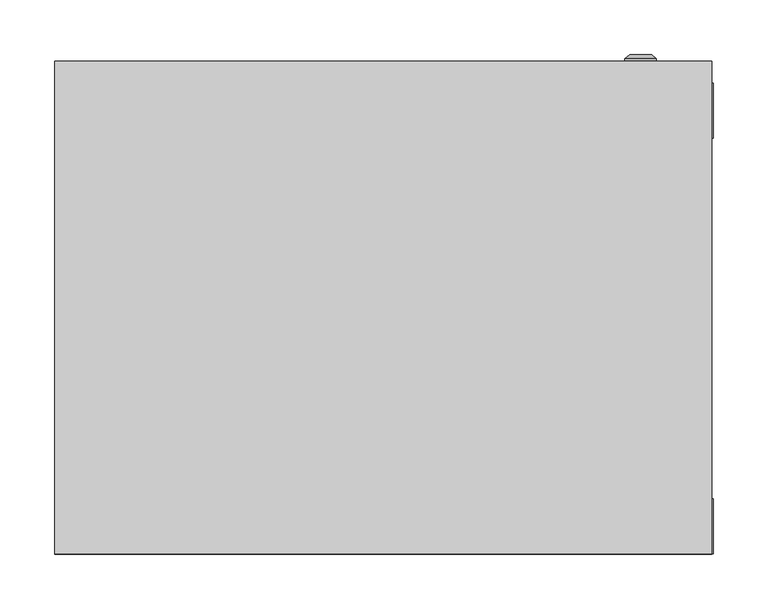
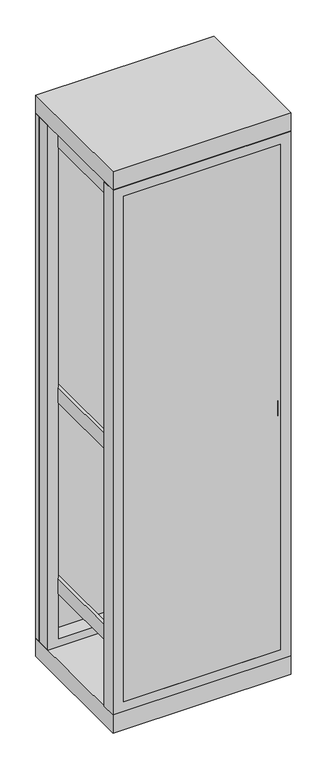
"""IFC4 building model written with IfcOpenShell, lengths in millimetres: proxy geometry, ВРУ-1 : ВРУ-1_2000х600х450."""

from ifc_helpers import new_model, si_unit, frame, origin, origin_with_axes, place, context, project, spatial, polyline, circle_curve, outline, extrude, source, transform, mapped, element, save
from ifc_brep_helpers import plane_surface, cylinder_surface, revolved_surface, advanced_brep


def electrical_equipment_46bb506c(model_context):
    return source(origin(), model_context, "Body", "SolidModel", [
        extrude(outline(polyline([(265.8707865, 0.0), (-263.3426966, 0.0), (-263.3426966, 10.0), (265.8707865, 10.0), (265.8707865, 0.0)])), frame((0.0, 0.0, 99.1378449), z_axis=(0.0, 0.0, 1.0), x_axis=(1.0, 0.0, 0.0)), (0.0, 0.0, 1.0), 1799.6160511),
        extrude(outline(polyline([(-255.8707865, 125.9831461), (-215.8707865, 125.9831461), (-215.8707865, 93.1179775), (-218.8707865, 93.1179775), (-218.8707865, 122.9831461), (-252.8707865, 122.9831461), (-252.8707865, 93.1179775), (-255.8707865, 93.1179775), (-255.8707865, 125.9831461)])), frame((0.0, 0.0, 189.6067416), z_axis=(0.0, 0.0, 1.0), x_axis=(1.0, 0.0, 0.0)), (0.0, 0.0, 1.0), 1745.3932584),
        extrude(outline(polyline([(215.8707865, 125.9831461), (255.8707865, 125.9831461), (255.8707865, 93.1179775), (252.8707865, 93.1179775), (252.8707865, 122.9831461), (218.8707865, 122.9831461), (218.8707865, 93.1179775), (215.8707865, 93.1179775), (215.8707865, 125.9831461)])), frame((0.0, 0.0, 189.6067416), z_axis=(0.0, 0.0, 1.0), x_axis=(1.0, 0.0, 0.0)), (0.0, 0.0, 1.0), 1745.3932584),
        extrude(outline(polyline([(-255.8707865, 10.0), (-265.8707865, 10.0), (-265.8707865, 430.0), (-255.8707865, 430.0), (-255.8707865, 10.0)])), frame((0.0, 0.0, 1845.5966059), z_axis=(0.0, 0.0, 1.0), x_axis=(1.0, 0.0, 0.0)), (0.0, 0.0, 1.0), 53.0898876),
        extrude(outline(polyline([(265.8707865, 10.0), (255.8707865, 10.0), (255.8707865, 430.0), (265.8707865, 430.0), (265.8707865, 10.0)])), frame((0.0, 0.0, 1845.5966059), z_axis=(0.0, 0.0, 1.0), x_axis=(1.0, 0.0, 0.0)), (0.0, 0.0, 1.0), 53.0898876),
        extrude(outline(polyline([(-255.8707865, 10.0), (-265.8707865, 10.0), (-265.8707865, 430.0), (-255.8707865, 430.0), (-255.8707865, 10.0)])), frame((0.0, 0.0, 255.5966059), z_axis=(0.0, 0.0, 1.0), x_axis=(1.0, 0.0, 0.0)), (0.0, 0.0, 1.0), 53.0898876),
        extrude(outline(polyline([(265.8707865, 10.0), (255.8707865, 10.0), (255.8707865, 430.0), (265.8707865, 430.0), (265.8707865, 10.0)])), frame((0.0, 0.0, 255.5966059), z_axis=(0.0, 0.0, 1.0), x_axis=(1.0, 0.0, 0.0)), (0.0, 0.0, 1.0), 53.0898876),
        extrude(outline(polyline([(-255.8707865, 10.0), (-265.8707865, 10.0), (-265.8707865, 430.0), (-255.8707865, 430.0), (-255.8707865, 10.0)])), frame((0.0, 0.0, 935.5966059), z_axis=(0.0, 0.0, 1.0), x_axis=(1.0, 0.0, 0.0)), (0.0, 0.0, 1.0), 53.0898876),
        extrude(outline(polyline([(265.8707865, 0.0), (255.8707865, 0.0), (255.8707865, 430.0), (265.8707865, 430.0), (265.8707865, 0.0)])), frame((0.0, 0.0, 935.5966059), z_axis=(0.0, 0.0, 1.0), x_axis=(1.0, 0.0, 0.0)), (0.0, 0.0, 1.0), 53.0898876),
        extrude(outline(polyline([(1934.1471543, -300.0), (65.0187804, -300.0), (65.0187804, 301.2640449), (1934.1471543, 301.2640449), (1934.1471543, -300.0)]), holes=[polyline([(99.1378449, 265.8707865), (99.1378449, -263.3426966), (1898.7538959, -263.3426966), (1898.7538959, 265.8707865), (99.1378449, 265.8707865)])]), frame((0.0, 0.0, 0.0), z_axis=(0.0, 1.0, 0.0), x_axis=(0.0, 0.0, 1.0)), (0.0, 0.0, 1.0), 50.0),
        extrude(outline(polyline([(1935.0, -300.0), (65.0187804, -300.0), (65.0187804, 301.2640449), (1935.0, 301.2640449), (1935.0, -300.0)]), holes=[polyline([(93.3701084, 265.8707865), (93.3701084, -263.3426966), (1892.9861595, -263.3426966), (1892.9861595, 265.8707865), (93.3701084, 265.8707865)])]), frame((0.0, 380.0, 0.0), z_axis=(0.0, 1.0, 0.0), x_axis=(0.0, 0.0, 1.0)), (0.0, 0.0, 1.0), 50.0),
        extrude(outline(polyline([(300.0067809, 450.0), (300.0067809, 0.0), (-300.0, 0.0), (-300.0, 450.0), (300.0067809, 450.0)])), frame((0.0, 0.0, 1935.0), z_axis=(0.0, 0.0, 1.0), x_axis=(1.0, 0.0, 0.0)), (0.0, 0.0, 1.0), 65.0),
        advanced_brep(
        [(220.669873, 450.0, 515.0), (249.330127, 450.0, 515.0), (235.0, 450.0, 515.0), (220.669873, 452.366592, 515.0), (249.330127, 452.366592, 515.0), (225.0, 456.0, 515.0), (245.0, 456.0, 515.0), (233.1080471, 456.0, 515.0), (236.8919529, 456.0, 515.0), (233.1080471, 454.9822294, 515.0), (236.8919529, 454.9822294, 515.0), (235.0, 454.9822294, 515.0)],
        [
            (0, 1, circle_curve(frame((235.0, 450.0, 515.0), z_axis=(0.0, -1.0, 0.0), x_axis=(1.0, 0.0, 0.0)), 14.330127)),
            (1, 2),
            (2, 0),
            (1, 0, circle_curve(frame((235.0, 450.0, 515.0), z_axis=(0.0, -1.0, 0.0), x_axis=(1.0, 0.0, 0.0)), 14.330127)),
            (3, 4, circle_curve(frame((235.0, 452.366592, 515.0), z_axis=(0.0, -1.0, 0.0), x_axis=(1.0, 0.0, 0.0)), 14.330127)),
            (4, 1),
            (0, 3),
            (4, 3, circle_curve(frame((235.0, 452.366592, 515.0), z_axis=(0.0, -1.0, 0.0), x_axis=(1.0, 0.0, 0.0)), 14.330127)),
            (5, 6, circle_curve(frame((235.0, 456.0, 515.0), z_axis=(0.0, -1.0, 0.0), x_axis=(1.0, 0.0, 0.0)), 10.0)),
            (6, 4),
            (3, 5),
            (6, 5, circle_curve(frame((235.0, 456.0, 515.0), z_axis=(0.0, -1.0, 0.0), x_axis=(1.0, 0.0, 0.0)), 10.0)),
            (7, 8, circle_curve(frame((235.0, 456.0, 515.0), z_axis=(0.0, -1.0, 0.0), x_axis=(1.0, 0.0, 0.0)), 1.8919529)),
            (8, 6),
            (5, 7),
            (8, 7, circle_curve(frame((235.0, 456.0, 515.0), z_axis=(0.0, -1.0, 0.0), x_axis=(1.0, 0.0, 0.0)), 1.8919529)),
            (9, 10, circle_curve(frame((235.0, 454.9822294, 515.0), z_axis=(0.0, -1.0, 0.0), x_axis=(1.0, 0.0, 0.0)), 1.8919529)),
            (10, 8),
            (7, 9),
            (10, 9, circle_curve(frame((235.0, 454.9822294, 515.0), z_axis=(0.0, -1.0, 0.0), x_axis=(1.0, 0.0, 0.0)), 1.8919529)),
            (11, 10),
            (9, 11),
        ],
        [
            plane_surface(frame((235.0, 450.0, 515.0), z_axis=(0.0, -1.0, 0.0), x_axis=(1.0, 0.0, 0.0))),
            cylinder_surface(frame((235.0, 463.1348851, 515.0), z_axis=(0.0, 1.0, 0.0), x_axis=(1.0, 0.0, 0.0)), 14.330127),
            revolved_surface(polyline([(249.330127, 452.366592, 515.0), (245.0, 456.0, 515.0)]), (235.0, 463.1348851, 515.0), (0.0, 1.0, 0.0)),
            plane_surface(frame((235.0, 456.0, 515.0), z_axis=(0.0, 1.0, 0.0), x_axis=(1.0, 0.0, 0.0))),
            revolved_surface(polyline([(236.8919529, 456.0, 515.0), (236.8919529, 454.9822294, 515.0)]), (235.0, 463.1348851, 515.0), (0.0, 1.0, 0.0)),
            plane_surface(frame((235.0, 454.9822294, 515.0), z_axis=(0.0, 1.0, 0.0), x_axis=(1.0, 0.0, 0.0))),
        ],
        [
            (0, [[1, 2, 3]]),
            (0, [[4, -3, -2]]),
            (1, [[5, 6, -1, 7]]),
            (1, [[8, -7, -4, -6]]),
            (2, [[9, 10, -5, 11]]),
            (2, [[12, -11, -8, -10]]),
            (3, [[13, 14, -9, 15]]),
            (3, [[16, -15, -12, -14]]),
            (4, [[17, 18, -13, 19]]),
            (4, [[20, -19, -16, -18]]),
            (5, [[21, -17, 22]]),
            (5, [[-22, -20, -21]]),
        ],
    ),
        advanced_brep(
        [(220.669873, 450.0, 1485.0), (249.330127, 450.0, 1485.0), (235.0, 450.0, 1485.0), (220.669873, 452.366592, 1485.0), (249.330127, 452.366592, 1485.0), (225.0, 456.0, 1485.0), (245.0, 456.0, 1485.0), (233.1080471, 456.0, 1485.0), (236.8919529, 456.0, 1485.0), (233.1080471, 454.9822294, 1485.0), (236.8919529, 454.9822294, 1485.0), (235.0, 454.9822294, 1485.0)],
        [
            (0, 1, circle_curve(frame((235.0, 450.0, 1485.0), z_axis=(0.0, -1.0, 0.0), x_axis=(1.0, 0.0, 0.0)), 14.330127)),
            (1, 2),
            (2, 0),
            (1, 0, circle_curve(frame((235.0, 450.0, 1485.0), z_axis=(0.0, -1.0, 0.0), x_axis=(1.0, 0.0, 0.0)), 14.330127)),
            (3, 4, circle_curve(frame((235.0, 452.366592, 1485.0), z_axis=(0.0, -1.0, 0.0), x_axis=(1.0, 0.0, 0.0)), 14.330127)),
            (4, 1),
            (0, 3),
            (4, 3, circle_curve(frame((235.0, 452.366592, 1485.0), z_axis=(0.0, -1.0, 0.0), x_axis=(1.0, 0.0, 0.0)), 14.330127)),
            (5, 6, circle_curve(frame((235.0, 456.0, 1485.0), z_axis=(0.0, -1.0, 0.0), x_axis=(1.0, 0.0, 0.0)), 10.0)),
            (6, 4),
            (3, 5),
            (6, 5, circle_curve(frame((235.0, 456.0, 1485.0), z_axis=(0.0, -1.0, 0.0), x_axis=(1.0, 0.0, 0.0)), 10.0)),
            (7, 8, circle_curve(frame((235.0, 456.0, 1485.0), z_axis=(0.0, -1.0, 0.0), x_axis=(1.0, 0.0, 0.0)), 1.8919529)),
            (8, 6),
            (5, 7),
            (8, 7, circle_curve(frame((235.0, 456.0, 1485.0), z_axis=(0.0, -1.0, 0.0), x_axis=(1.0, 0.0, 0.0)), 1.8919529)),
            (9, 10, circle_curve(frame((235.0, 454.9822294, 1485.0), z_axis=(0.0, -1.0, 0.0), x_axis=(1.0, 0.0, 0.0)), 1.8919529)),
            (10, 8),
            (7, 9),
            (10, 9, circle_curve(frame((235.0, 454.9822294, 1485.0), z_axis=(0.0, -1.0, 0.0), x_axis=(1.0, 0.0, 0.0)), 1.8919529)),
            (11, 10),
            (9, 11),
        ],
        [
            plane_surface(frame((235.0, 450.0, 1485.0), z_axis=(0.0, -1.0, 0.0), x_axis=(1.0, 0.0, 0.0))),
            cylinder_surface(frame((235.0, 463.1348851, 1485.0), z_axis=(0.0, 1.0, 0.0), x_axis=(1.0, 0.0, 0.0)), 14.330127),
            revolved_surface(polyline([(249.330127, 452.366592, 1485.0), (245.0, 456.0, 1485.0)]), (235.0, 463.1348851, 1485.0), (0.0, 1.0, 0.0)),
            plane_surface(frame((235.0, 456.0, 1485.0), z_axis=(0.0, 1.0, 0.0), x_axis=(1.0, 0.0, 0.0))),
            revolved_surface(polyline([(236.8919529, 456.0, 1485.0), (236.8919529, 454.9822294, 1485.0)]), (235.0, 463.1348851, 1485.0), (0.0, 1.0, 0.0)),
            plane_surface(frame((235.0, 454.9822294, 1485.0), z_axis=(0.0, 1.0, 0.0), x_axis=(1.0, 0.0, 0.0))),
        ],
        [
            (0, [[1, 2, 3]]),
            (0, [[4, -3, -2]]),
            (1, [[5, 6, -1, 7]]),
            (1, [[8, -7, -4, -6]]),
            (2, [[9, 10, -5, 11]]),
            (2, [[12, -11, -8, -10]]),
            (3, [[13, 14, -9, 15]]),
            (3, [[16, -15, -12, -14]]),
            (4, [[17, 18, -13, 19]]),
            (4, [[20, -19, -16, -18]]),
            (5, [[21, -17, 22]]),
            (5, [[-22, -20, -21]]),
        ],
    ),
        extrude(outline(polyline([(300.0067809, 450.0), (300.0067809, 0.0), (-300.0, 0.0), (-300.0, 450.0), (300.0067809, 450.0)])), origin_with_axes(), (0.0, 0.0, 1.0), 65.0187804),
        extrude(outline(polyline([(300.0, 430.0), (-300.0, 430.0), (-300.0, 450.0), (300.0, 450.0), (300.0, 430.0)])), frame((0.0, 0.0, 65.0187804), z_axis=(0.0, 0.0, 1.0), x_axis=(1.0, 0.0, 0.0)), (0.0, 0.0, 1.0), 1869.9812196),
    ])


if __name__ == "__main__":
    model = new_model("IFC4")
    model_context = context("Model", 3, world=origin())
    ifc_project = project(units=[si_unit("LENGTHUNIT", "METRE", prefix="MILLI")], contexts=[model_context])
    site = spatial("IfcSite", under=ifc_project)
    building = spatial("IfcBuilding", under=site)
    placement = place(None, origin())
    electrical_equipment_shape = electrical_equipment_46bb506c(model_context)
    element("IfcBuildingElementProxy", 1, Name="ВРУ-1 : ВРУ-1_2000х600х450", ObjectType="ВРУ-1 : ВРУ-1_2000х600х450", at=placement, inside=building, context=model_context, shape_type="MappedRepresentation", body=[
        mapped(electrical_equipment_shape, transform((0.0, 0.0, 0.0), x_axis=(1.0, 0.0, 0.0), y_axis=(0.0, 1.0, 0.0), z_axis=(0.0, 0.0, 1.0))),
    ])
    save(model, "model.ifc")
